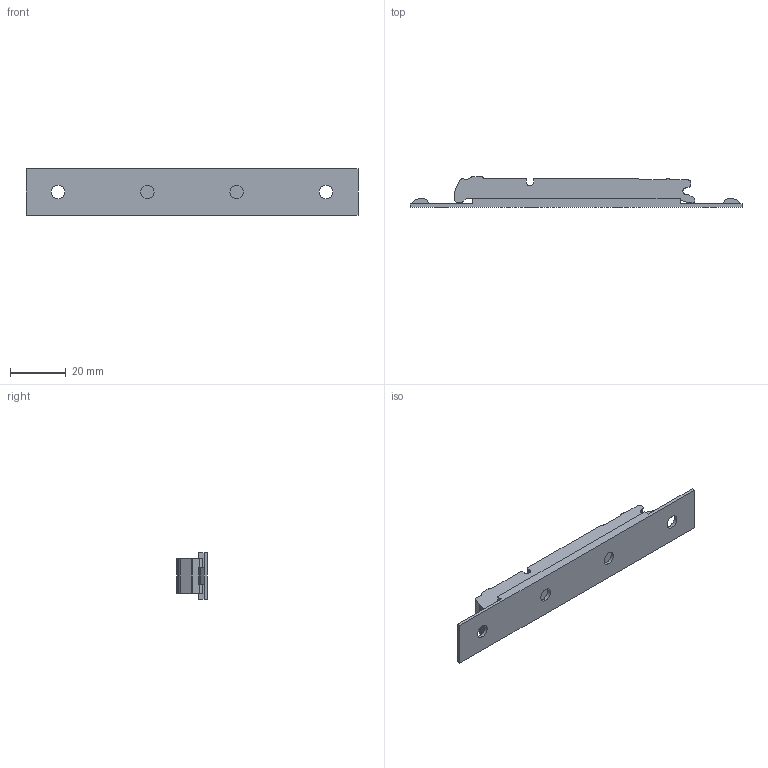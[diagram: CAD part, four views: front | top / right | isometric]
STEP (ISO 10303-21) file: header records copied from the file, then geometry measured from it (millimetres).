
FILE_DESCRIPTION (( 'STEP AP214' ), '1' );
FILE_NAME ('SF00YQ.STEP', '2021-04-10T02:15:57', ( 'Windows 蚚誧' ), ( '' ), 'SwSTEP 2.0', 'SolidWorks 2018', '' );
FILE_SCHEMA (( 'AUTOMOTIVE_DESIGN' ));
Length unit declared in the file: millimetre
Products named in the file (1): SF00YQ
Bounding box: 118.9 x 11 x 16.5 mm (x, y, z)
Volume: 12043.6 mm3; surface area: 6399.7 mm2
Topology: 1 solids, 1 shells, 90 faces, 250 edges, 166 vertices
Faces by surface type: plane 48, cylinder 42
Entity records: 3120 total; most frequent: DIRECTION 516, CARTESIAN_POINT 507, ORIENTED_EDGE 500, EDGE_CURVE 250, AXIS2_PLACEMENT_3D 175, VECTOR 166, VERTEX_POINT 166, LINE 166
